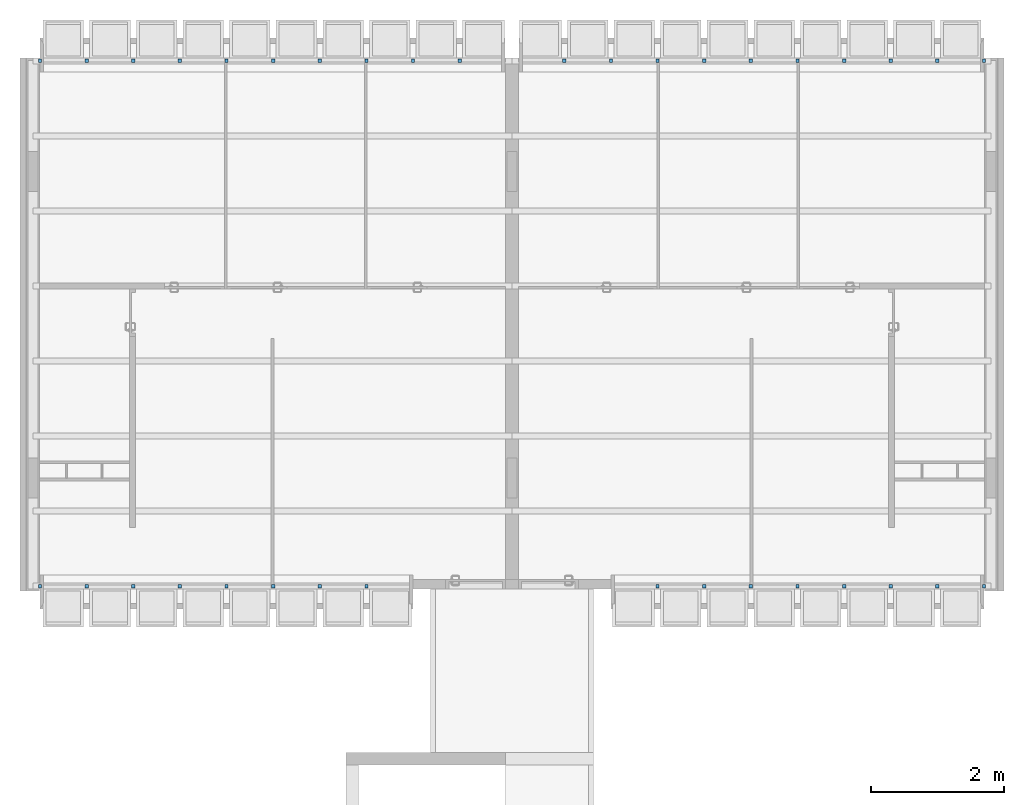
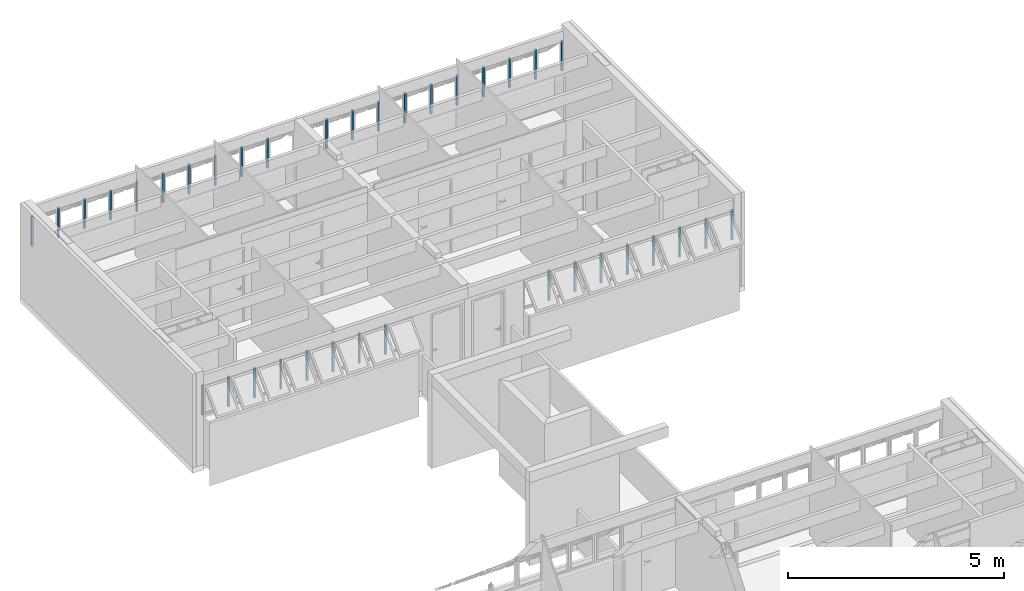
# One storey, part 3 of 37: 36 members, 4 elements without a shape of their own.
"""IFC2X3 building model written with IfcOpenShell, lengths in millimetres."""

from ifc_helpers import new_model, entity, si_unit, converted_unit, derived_unit, money_unit, direction, frame, origin_with_axes, place, context, subcontext, project, spatial, polyline, outline, extrude, material, type_object, element, aggregate, save


model = new_model("IFC2X3")

# Units and contexts
model_context = context("Model", 3, precision=0.01, world=origin_with_axes(), true_north=direction((0.0, 1.0)))
body_context = subcontext(model_context, "Body", "Model", "MODEL_VIEW")
ifc_project = project(units=[si_unit("LENGTHUNIT", "METRE", prefix="MILLI"), si_unit("AREAUNIT", "SQUARE_METRE"), si_unit("VOLUMEUNIT", "CUBIC_METRE"), converted_unit("PLANEANGLEUNIT", "DEGREE", entity("IfcPlaneAngleMeasure", 0.0174532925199), si_unit("PLANEANGLEUNIT", "RADIAN"), dimensions=[0, 0, 0, 0, 0, 0, 0]), money_unit("USD"), converted_unit("TIMEUNIT", "Year", entity("IfcTimeMeasure", 31556926.0), si_unit("TIMEUNIT", "SECOND"), dimensions=[0, 0, 1, 0, 0, 0, 0]), si_unit("MASSUNIT", "GRAM", prefix="KILO"), si_unit("THERMODYNAMICTEMPERATUREUNIT", "DEGREE_CELSIUS"), si_unit("LUMINOUSINTENSITYUNIT", "LUMEN"), si_unit("ENERGYUNIT", "JOULE", prefix="MEGA"), derived_unit("THERMALCONDUCTANCEUNIT", [(si_unit("POWERUNIT", "WATT"), 1), (si_unit("LENGTHUNIT", "METRE"), -1), (si_unit("THERMODYNAMICTEMPERATUREUNIT", "KELVIN"), -1)]), derived_unit("SPECIFICHEATCAPACITYUNIT", [(si_unit("ENERGYUNIT", "JOULE"), 1), (si_unit("MASSUNIT", "GRAM", prefix="KILO"), -1), (si_unit("THERMODYNAMICTEMPERATUREUNIT", "KELVIN"), -1)]), derived_unit("MASSDENSITYUNIT", [(si_unit("MASSUNIT", "GRAM", prefix="KILO"), 1), (si_unit("VOLUMEUNIT", "CUBIC_METRE"), -1)])], contexts=[model_context])

# Site, building, storey
site_placement = place(None, origin_with_axes())
site = spatial("IfcSite", under=ifc_project, at=site_placement, Name="Local", CompositionType="ELEMENT")
building_placement = place(site_placement, origin_with_axes())
building = spatial("IfcBuilding", under=site, at=building_placement, Name="Construção", CompositionType="ELEMENT")
storey_placement = place(building_placement, frame((0.0, 0.0, 5300.0), z_axis=(0.0, 0.0, 1.0), x_axis=(1.0, 0.0, 0.0)))
storey = spatial("IfcBuildingStorey", under=building, at=storey_placement, Name="Terceiro Pavimento", CompositionType="ELEMENT", Elevation=5300.0)

# Window, members
window_style = type_object("IfcWindowStyle", Name="Tipo de Parede Cortina", ConstructionType="NOTDEFINED", OperationType="NOTDEFINED", ParameterTakesPrecedence=False, Sizeable=False)
window_1_placement = place(storey_placement, frame((2750.0, 17910.0, 1355.00007107), z_axis=(0.0, 0.0, 1.0), x_axis=(1.0, 0.0, 0.0)))
window_1 = element("IfcWindow", 1, at=window_1_placement, inside=storey, type_object=window_style, Name="APTO11-JANELA-000")
ifc_material = material(Name="Alumínio")
member_type = type_object("IfcMemberType", Name="Montante 50 x 50", PredefinedType="MULLION")
member_1_placement = place(window_1_placement, frame((1050.0, 0.0, 0.0), z_axis=(0.0, 0.0, 1.0), x_axis=(-1.0, 0.0, 0.0)))
member_1 = element("IfcMember", 2, at=member_1_placement, type_object=member_type, material=ifc_material, Name="APTO11-PC-Est-Mnt-430", context=body_context, shape_type="SweptSolid", body=[
    extrude(outline(polyline([(-25.0, 50.0), (-25.0, 0.0), (25.0, 0.0), (25.0, 50.0), (-25.0, 50.0)])), frame((0.0, 0.0, 0.0), z_axis=(0.0, 0.0, 1.0), x_axis=(-1.0, 0.0, 0.0)), (0.0, 0.0, 1.0), 844.999891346),
])
member_2_placement = place(window_1_placement, frame((1750.0, 0.0, 0.0), z_axis=(0.0, 0.0, 1.0), x_axis=(-1.0, 0.0, 0.0)))
member_2 = element("IfcMember", 3, at=member_2_placement, type_object=member_type, material=ifc_material, Name="APTO11-PC-Est-Mnt-485", context=body_context, shape_type="SweptSolid", body=[
    extrude(outline(polyline([(-25.0, 50.0), (-25.0, 0.0), (25.0, 0.0), (25.0, 50.0), (-25.0, 50.0)])), frame((0.0, 0.0, 0.0), z_axis=(0.0, 0.0, 1.0), x_axis=(-1.0, 0.0, 0.0)), (0.0, 0.0, 1.0), 844.999891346),
])
member_3_placement = place(window_1_placement, frame((2450.0, 0.0, 0.0), z_axis=(0.0, 0.0, 1.0), x_axis=(-1.0, 0.0, 0.0)))
member_3 = element("IfcMember", 4, at=member_3_placement, type_object=member_type, material=ifc_material, Name="APTO11-PC-Est-Mnt-486", context=body_context, shape_type="SweptSolid", body=[
    extrude(outline(polyline([(-25.0, 50.0), (-25.0, 0.0), (25.0, 0.0), (25.0, 50.0), (-25.0, 50.0)])), frame((0.0, 0.0, 0.0), z_axis=(0.0, 0.0, 1.0), x_axis=(-1.0, 0.0, 0.0)), (0.0, 0.0, 1.0), 844.999891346),
])
member_4_placement = place(window_1_placement, frame((-350.0, 0.0, 0.0), z_axis=(0.0, 0.0, 1.0), x_axis=(-1.0, 0.0, 0.0)))
member_4 = element("IfcMember", 5, at=member_4_placement, type_object=member_type, material=ifc_material, Name="APTO11-PC-Est-Mnt-428", context=body_context, shape_type="SweptSolid", body=[
    extrude(outline(polyline([(-25.0, 50.0), (-25.0, 0.0), (25.0, 0.0), (25.0, 50.0), (-25.0, 50.0)])), frame((0.0, 0.0, 0.0), z_axis=(0.0, 0.0, 1.0), x_axis=(-1.0, 0.0, 0.0)), (0.0, 0.0, 1.0), 844.999891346),
])
member_5_placement = place(window_1_placement, frame((-2450.0, 0.0, 0.0), z_axis=(0.0, 0.0, 1.0), x_axis=(-1.0, 0.0, 0.0)))
member_5 = element("IfcMember", 6, at=member_5_placement, type_object=member_type, material=ifc_material, Name="APTO11-PC-Est-Mnt-560", context=body_context, shape_type="SweptSolid", body=[
    extrude(outline(polyline([(-25.0, 50.0), (-25.0, 0.0), (25.0, 0.0), (25.0, 50.0), (-25.0, 50.0)])), frame((0.0, 0.0, 0.0), z_axis=(0.0, 0.0, 1.0), x_axis=(-1.0, 0.0, 0.0)), (0.0, 0.0, 1.0), 844.999891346),
])
member_6_placement = place(window_1_placement, frame((350.0, 0.0, 0.0), z_axis=(0.0, 0.0, 1.0), x_axis=(-1.0, 0.0, 0.0)))
member_6 = element("IfcMember", 7, at=member_6_placement, type_object=member_type, material=ifc_material, Name="APTO11-PC-Est-Mnt-429", context=body_context, shape_type="SweptSolid", body=[
    extrude(outline(polyline([(-25.0, 50.0), (-25.0, 0.0), (25.0, 0.0), (25.0, 50.0), (-25.0, 50.0)])), frame((0.0, 0.0, 0.0), z_axis=(0.0, 0.0, 1.0), x_axis=(-1.0, 0.0, 0.0)), (0.0, 0.0, 1.0), 844.999891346),
])
member_7_placement = place(window_1_placement, frame((-1050.0, 0.0, 0.0), z_axis=(0.0, 0.0, 1.0), x_axis=(-1.0, 0.0, 0.0)))
member_7 = element("IfcMember", 8, at=member_7_placement, type_object=member_type, material=ifc_material, Name="APTO11-PC-Est-Mnt-427", context=body_context, shape_type="SweptSolid", body=[
    extrude(outline(polyline([(-25.0, 50.0), (-25.0, 0.0), (25.0, 0.0), (25.0, 50.0), (-25.0, 50.0)])), frame((0.0, 0.0, 0.0), z_axis=(0.0, 0.0, 1.0), x_axis=(-1.0, 0.0, 0.0)), (0.0, 0.0, 1.0), 844.999891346),
])
member_8_placement = place(window_1_placement, frame((-1750.0, 0.0, 0.0), z_axis=(0.0, 0.0, 1.0), x_axis=(-1.0, 0.0, 0.0)))
member_8 = element("IfcMember", 9, at=member_8_placement, type_object=member_type, material=ifc_material, Name="APTO11-PC-Est-Mnt-426", context=body_context, shape_type="SweptSolid", body=[
    extrude(outline(polyline([(-25.0, 50.0), (-25.0, 0.0), (25.0, 0.0), (25.0, 50.0), (-25.0, 50.0)])), frame((0.0, 0.0, 0.0), z_axis=(0.0, 0.0, 1.0), x_axis=(-1.0, 0.0, 0.0)), (0.0, 0.0, 1.0), 844.999891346),
])
aggregate(window_1, [member_1, member_2, member_3, member_4, member_5, member_6, member_7, member_8])

window_2_placement = place(storey_placement, frame((6250.0, 25844.9790225, 1355.02054151), z_axis=(0.0, 0.0, 1.0), x_axis=(1.0, 0.0, 0.0)))
window_2 = element("IfcWindow", 10, at=window_2_placement, inside=storey, type_object=window_style, Name="APTO11-JANELA-001")
member_9_placement = place(window_2_placement, frame((-2450.0, 0.0, 0.0), z_axis=(0.0, 0.0, 1.0), x_axis=(-1.0, 0.0, 0.0)))
member_9 = element("IfcMember", 11, at=member_9_placement, type_object=member_type, material=ifc_material, Name="APTO11-PC-Est-Mnt-430", context=body_context, shape_type="SweptSolid", body=[
    extrude(outline(polyline([(-25.0, -50.0), (25.0, -50.0), (25.0, 0.0), (-25.0, 0.0), (-25.0, -50.0)])), frame((0.0, 0.0, 0.0), z_axis=(0.0, 0.0, 1.0), x_axis=(-1.0, 0.0, 0.0)), (0.0, 0.0, 1.0), 844.999928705),
])
member_10_placement = place(window_2_placement, frame((-1750.0, 0.0, 0.0), z_axis=(0.0, 0.0, 1.0), x_axis=(-1.0, 0.0, 0.0)))
member_10 = element("IfcMember", 12, at=member_10_placement, type_object=member_type, material=ifc_material, Name="APTO11-PC-Est-Mnt-485", context=body_context, shape_type="SweptSolid", body=[
    extrude(outline(polyline([(-25.0, -50.0), (25.0, -50.0), (25.0, 0.0), (-25.0, 0.0), (-25.0, -50.0)])), frame((0.0, 0.0, 0.0), z_axis=(0.0, 0.0, 1.0), x_axis=(-1.0, 0.0, 0.0)), (0.0, 0.0, 1.0), 844.999928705),
])
member_11_placement = place(window_2_placement, frame((-1050.0, 0.0, 0.0), z_axis=(0.0, 0.0, 1.0), x_axis=(-1.0, 0.0, 0.0)))
member_11 = element("IfcMember", 13, at=member_11_placement, type_object=member_type, material=ifc_material, Name="APTO11-PC-Est-Mnt-486", context=body_context, shape_type="SweptSolid", body=[
    extrude(outline(polyline([(-25.0, -50.0), (25.0, -50.0), (25.0, 0.0), (-25.0, 0.0), (-25.0, -50.0)])), frame((0.0, 0.0, 0.0), z_axis=(0.0, 0.0, 1.0), x_axis=(-1.0, 0.0, 0.0)), (0.0, 0.0, 1.0), 844.999928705),
])
member_12_placement = place(window_2_placement, frame((-3850.0, 0.0, 0.0), z_axis=(0.0, 0.0, 1.0), x_axis=(-1.0, 0.0, 0.0)))
member_12 = element("IfcMember", 14, at=member_12_placement, type_object=member_type, material=ifc_material, Name="APTO11-PC-Est-Mnt-428", context=body_context, shape_type="SweptSolid", body=[
    extrude(outline(polyline([(-25.0, -50.0), (25.0, -50.0), (25.0, 0.0), (-25.0, 0.0), (-25.0, -50.0)])), frame((0.0, 0.0, 0.0), z_axis=(0.0, 0.0, 1.0), x_axis=(-1.0, 0.0, 0.0)), (0.0, 0.0, 1.0), 844.999928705),
])
member_13_placement = place(window_2_placement, frame((-350.0, 0.0, 0.0), z_axis=(0.0, 0.0, 1.0), x_axis=(-1.0, 0.0, 0.0)))
member_13 = element("IfcMember", 15, at=member_13_placement, type_object=member_type, material=ifc_material, Name="APTO11-PC-Est-Mnt-487", context=body_context, shape_type="SweptSolid", body=[
    extrude(outline(polyline([(-25.0, -50.0), (25.0, -50.0), (25.0, 0.0), (-25.0, 0.0), (-25.0, -50.0)])), frame((0.0, 0.0, 0.0), z_axis=(0.0, 0.0, 1.0), x_axis=(-1.0, 0.0, 0.0)), (0.0, 0.0, 1.0), 844.999928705),
])
member_14_placement = place(window_2_placement, frame((350.0, 0.0, 0.0), z_axis=(0.0, 0.0, 1.0), x_axis=(-1.0, 0.0, 0.0)))
member_14 = element("IfcMember", 16, at=member_14_placement, type_object=member_type, material=ifc_material, Name="APTO11-PC-Est-Mnt-488", context=body_context, shape_type="SweptSolid", body=[
    extrude(outline(polyline([(-25.0, -50.0), (25.0, -50.0), (25.0, 0.0), (-25.0, 0.0), (-25.0, -50.0)])), frame((0.0, 0.0, 0.0), z_axis=(0.0, 0.0, 1.0), x_axis=(-1.0, 0.0, 0.0)), (0.0, 0.0, 1.0), 844.999928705),
])
member_15_placement = place(window_2_placement, frame((-5950.0, 0.0, 0.0), z_axis=(0.0, 0.0, 1.0), x_axis=(-1.0, 0.0, 0.0)))
member_15 = element("IfcMember", 17, at=member_15_placement, type_object=member_type, material=ifc_material, Name="APTO11-PC-Est-Mnt-522", context=body_context, shape_type="SweptSolid", body=[
    extrude(outline(polyline([(-25.0, -50.0), (25.0, -50.0), (25.0, 0.0), (-25.0, 0.0), (-25.0, -50.0)])), frame((0.0, 0.0, 0.0), z_axis=(0.0, 0.0, 1.0), x_axis=(-1.0, 0.0, 0.0)), (0.0, 0.0, 1.0), 844.999928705),
])
member_16_placement = place(window_2_placement, frame((-3150.0, 0.0, 0.0), z_axis=(0.0, 0.0, 1.0), x_axis=(-1.0, 0.0, 0.0)))
member_16 = element("IfcMember", 18, at=member_16_placement, type_object=member_type, material=ifc_material, Name="APTO11-PC-Est-Mnt-429", context=body_context, shape_type="SweptSolid", body=[
    extrude(outline(polyline([(-25.0, -50.0), (25.0, -50.0), (25.0, 0.0), (-25.0, 0.0), (-25.0, -50.0)])), frame((0.0, 0.0, 0.0), z_axis=(0.0, 0.0, 1.0), x_axis=(-1.0, 0.0, 0.0)), (0.0, 0.0, 1.0), 844.999928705),
])
member_17_placement = place(window_2_placement, frame((-4550.0, 0.0, 0.0), z_axis=(0.0, 0.0, 1.0), x_axis=(-1.0, 0.0, 0.0)))
member_17 = element("IfcMember", 19, at=member_17_placement, type_object=member_type, material=ifc_material, Name="APTO11-PC-Est-Mnt-427", context=body_context, shape_type="SweptSolid", body=[
    extrude(outline(polyline([(-25.0, -50.0), (25.0, -50.0), (25.0, 0.0), (-25.0, 0.0), (-25.0, -50.0)])), frame((0.0, 0.0, 0.0), z_axis=(0.0, 0.0, 1.0), x_axis=(-1.0, 0.0, 0.0)), (0.0, 0.0, 1.0), 844.999928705),
])
member_18_placement = place(window_2_placement, frame((-5250.0, 0.0, 0.0), z_axis=(0.0, 0.0, 1.0), x_axis=(-1.0, 0.0, 0.0)))
member_18 = element("IfcMember", 20, at=member_18_placement, type_object=member_type, material=ifc_material, Name="APTO11-PC-Est-Mnt-426", context=body_context, shape_type="SweptSolid", body=[
    extrude(outline(polyline([(-25.0, -50.0), (25.0, -50.0), (25.0, 0.0), (-25.0, 0.0), (-25.0, -50.0)])), frame((0.0, 0.0, 0.0), z_axis=(0.0, 0.0, 1.0), x_axis=(-1.0, 0.0, 0.0)), (0.0, 0.0, 1.0), 844.999928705),
])
aggregate(window_2, [member_9, member_10, member_11, member_12, member_13, member_14, member_15, member_16, member_17, member_18])

window_3_placement = place(storey_placement, frame((12020.0, 17910.0, 1355.00007107), z_axis=(0.0, 0.0, 1.0), x_axis=(1.0, 0.0, 0.0)))
window_3 = element("IfcWindow", 21, at=window_3_placement, inside=storey, type_object=window_style, Name="APTO12-JANELA-000")
member_19_placement = place(window_3_placement, frame((-1050.0, 0.0, 0.0), z_axis=(0.0, 0.0, 1.0), x_axis=(1.0, 0.0, 0.0)))
member_19 = element("IfcMember", 22, at=member_19_placement, type_object=member_type, material=ifc_material, Name="APTO12-PC-Est-Mnt-430", context=body_context, shape_type="SweptSolid", body=[
    extrude(outline(polyline([(25.0, 50.0), (-25.0, 50.0), (-25.0, 0.0), (25.0, 0.0), (25.0, 50.0)])), origin_with_axes(), (0.0, 0.0, 1.0), 844.999928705),
])
member_20_placement = place(window_3_placement, frame((-1750.0, 0.0, 0.0), z_axis=(0.0, 0.0, 1.0), x_axis=(1.0, 0.0, 0.0)))
member_20 = element("IfcMember", 23, at=member_20_placement, type_object=member_type, material=ifc_material, Name="APTO12-PC-Est-Mnt-485", context=body_context, shape_type="SweptSolid", body=[
    extrude(outline(polyline([(25.0, 50.0), (-25.0, 50.0), (-25.0, 0.0), (25.0, 0.0), (25.0, 50.0)])), origin_with_axes(), (0.0, 0.0, 1.0), 844.999928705),
])
member_21_placement = place(window_3_placement, frame((-2450.0, 0.0, 0.0), z_axis=(0.0, 0.0, 1.0), x_axis=(1.0, 0.0, 0.0)))
member_21 = element("IfcMember", 24, at=member_21_placement, type_object=member_type, material=ifc_material, Name="APTO12-PC-Est-Mnt-486", context=body_context, shape_type="SweptSolid", body=[
    extrude(outline(polyline([(25.0, 50.0), (-25.0, 50.0), (-25.0, 0.0), (25.0, 0.0), (25.0, 50.0)])), origin_with_axes(), (0.0, 0.0, 1.0), 844.999928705),
])
member_22_placement = place(window_3_placement, frame((350.0, 0.0, 0.0), z_axis=(0.0, 0.0, 1.0), x_axis=(1.0, 0.0, 0.0)))
member_22 = element("IfcMember", 25, at=member_22_placement, type_object=member_type, material=ifc_material, Name="APTO12-PC-Est-Mnt-428", context=body_context, shape_type="SweptSolid", body=[
    extrude(outline(polyline([(25.0, 50.0), (-25.0, 50.0), (-25.0, 0.0), (25.0, 0.0), (25.0, 50.0)])), origin_with_axes(), (0.0, 0.0, 1.0), 844.999928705),
])
member_23_placement = place(window_3_placement, frame((2450.0, 0.0, 0.0), z_axis=(0.0, 0.0, 1.0), x_axis=(1.0, 0.0, 0.0)))
member_23 = element("IfcMember", 26, at=member_23_placement, type_object=member_type, material=ifc_material, Name="APTO12-PC-Est-Mnt-560", context=body_context, shape_type="SweptSolid", body=[
    extrude(outline(polyline([(25.0, 50.0), (-25.0, 50.0), (-25.0, 0.0), (25.0, 0.0), (25.0, 50.0)])), origin_with_axes(), (0.0, 0.0, 1.0), 844.999928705),
])
member_24_placement = place(window_3_placement, frame((-350.0, 0.0, 0.0), z_axis=(0.0, 0.0, 1.0), x_axis=(1.0, 0.0, 0.0)))
member_24 = element("IfcMember", 27, at=member_24_placement, type_object=member_type, material=ifc_material, Name="APTO12-PC-Est-Mnt-429", context=body_context, shape_type="SweptSolid", body=[
    extrude(outline(polyline([(25.0, 50.0), (-25.0, 50.0), (-25.0, 0.0), (25.0, 0.0), (25.0, 50.0)])), origin_with_axes(), (0.0, 0.0, 1.0), 844.999928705),
])
member_25_placement = place(window_3_placement, frame((1050.0, 0.0, 0.0), z_axis=(0.0, 0.0, 1.0), x_axis=(1.0, 0.0, 0.0)))
member_25 = element("IfcMember", 28, at=member_25_placement, type_object=member_type, material=ifc_material, Name="APTO12-PC-Est-Mnt-427", context=body_context, shape_type="SweptSolid", body=[
    extrude(outline(polyline([(25.0, 50.0), (-25.0, 50.0), (-25.0, 0.0), (25.0, 0.0), (25.0, 50.0)])), origin_with_axes(), (0.0, 0.0, 1.0), 844.999928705),
])
member_26_placement = place(window_3_placement, frame((1750.0, 0.0, 0.0), z_axis=(0.0, 0.0, 1.0), x_axis=(1.0, 0.0, 0.0)))
member_26 = element("IfcMember", 29, at=member_26_placement, type_object=member_type, material=ifc_material, Name="APTO12-PC-Est-Mnt-426", context=body_context, shape_type="SweptSolid", body=[
    extrude(outline(polyline([(25.0, 50.0), (-25.0, 50.0), (-25.0, 0.0), (25.0, 0.0), (25.0, 50.0)])), origin_with_axes(), (0.0, 0.0, 1.0), 844.999928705),
])
aggregate(window_3, [member_19, member_20, member_21, member_22, member_23, member_24, member_25, member_26])

window_4_placement = place(storey_placement, frame((8520.0, 25844.9790225, 1355.02054151), z_axis=(0.0, 0.0, 1.0), x_axis=(1.0, 0.0, 0.0)))
window_4 = element("IfcWindow", 30, at=window_4_placement, inside=storey, type_object=window_style, Name="APTO12-JANELA-001")
member_27_placement = place(window_4_placement, frame((2450.0, 0.0, 0.0), z_axis=(0.0, 0.0, 1.0), x_axis=(1.0, 0.0, 0.0)))
member_27 = element("IfcMember", 31, at=member_27_placement, type_object=member_type, material=ifc_material, Name="APTO12-PC-Est-Mnt-430", context=body_context, shape_type="SweptSolid", body=[
    extrude(outline(polyline([(25.0, -50.0), (25.0, 0.0), (-25.0, 0.0), (-25.0, -50.0), (25.0, -50.0)])), origin_with_axes(), (0.0, 0.0, 1.0), 844.999891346),
])
member_28_placement = place(window_4_placement, frame((1750.0, 0.0, 0.0), z_axis=(0.0, 0.0, 1.0), x_axis=(1.0, 0.0, 0.0)))
member_28 = element("IfcMember", 32, at=member_28_placement, type_object=member_type, material=ifc_material, Name="APTO12-PC-Est-Mnt-485", context=body_context, shape_type="SweptSolid", body=[
    extrude(outline(polyline([(25.0, -50.0), (25.0, 0.0), (-25.0, 0.0), (-25.0, -50.0), (25.0, -50.0)])), origin_with_axes(), (0.0, 0.0, 1.0), 844.999891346),
])
member_29_placement = place(window_4_placement, frame((1050.0, 0.0, 0.0), z_axis=(0.0, 0.0, 1.0), x_axis=(1.0, 0.0, 0.0)))
member_29 = element("IfcMember", 33, at=member_29_placement, type_object=member_type, material=ifc_material, Name="APTO12-PC-Est-Mnt-486", context=body_context, shape_type="SweptSolid", body=[
    extrude(outline(polyline([(25.0, -50.0), (25.0, 0.0), (-25.0, 0.0), (-25.0, -50.0), (25.0, -50.0)])), origin_with_axes(), (0.0, 0.0, 1.0), 844.999891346),
])
member_30_placement = place(window_4_placement, frame((3850.0, 0.0, 0.0), z_axis=(0.0, 0.0, 1.0), x_axis=(1.0, 0.0, 0.0)))
member_30 = element("IfcMember", 34, at=member_30_placement, type_object=member_type, material=ifc_material, Name="APTO12-PC-Est-Mnt-428", context=body_context, shape_type="SweptSolid", body=[
    extrude(outline(polyline([(25.0, -50.0), (25.0, 0.0), (-25.0, 0.0), (-25.0, -50.0), (25.0, -50.0)])), origin_with_axes(), (0.0, 0.0, 1.0), 844.999891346),
])
member_31_placement = place(window_4_placement, frame((350.0, 0.0, 0.0), z_axis=(0.0, 0.0, 1.0), x_axis=(1.0, 0.0, 0.0)))
member_31 = element("IfcMember", 35, at=member_31_placement, type_object=member_type, material=ifc_material, Name="APTO12-PC-Est-Mnt-487", context=body_context, shape_type="SweptSolid", body=[
    extrude(outline(polyline([(25.0, -50.0), (25.0, 0.0), (-25.0, 0.0), (-25.0, -50.0), (25.0, -50.0)])), origin_with_axes(), (0.0, 0.0, 1.0), 844.999891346),
])
member_32_placement = place(window_4_placement, frame((-350.0, 0.0, 0.0), z_axis=(0.0, 0.0, 1.0), x_axis=(1.0, 0.0, 0.0)))
member_32 = element("IfcMember", 36, at=member_32_placement, type_object=member_type, material=ifc_material, Name="APTO12-PC-Est-Mnt-488", context=body_context, shape_type="SweptSolid", body=[
    extrude(outline(polyline([(25.0, -50.0), (25.0, 0.0), (-25.0, 0.0), (-25.0, -50.0), (25.0, -50.0)])), origin_with_axes(), (0.0, 0.0, 1.0), 844.999891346),
])
member_33_placement = place(window_4_placement, frame((5950.0, 0.0, 0.0), z_axis=(0.0, 0.0, 1.0), x_axis=(1.0, 0.0, 0.0)))
member_33 = element("IfcMember", 37, at=member_33_placement, type_object=member_type, material=ifc_material, Name="APTO12-PC-Est-Mnt-522", context=body_context, shape_type="SweptSolid", body=[
    extrude(outline(polyline([(25.0, -50.0), (25.0, 0.0), (-25.0, 0.0), (-25.0, -50.0), (25.0, -50.0)])), origin_with_axes(), (0.0, 0.0, 1.0), 844.999891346),
])
member_34_placement = place(window_4_placement, frame((3150.0, 0.0, 0.0), z_axis=(0.0, 0.0, 1.0), x_axis=(1.0, 0.0, 0.0)))
member_34 = element("IfcMember", 38, at=member_34_placement, type_object=member_type, material=ifc_material, Name="APTO12-PC-Est-Mnt-429", context=body_context, shape_type="SweptSolid", body=[
    extrude(outline(polyline([(25.0, -50.0), (25.0, 0.0), (-25.0, 0.0), (-25.0, -50.0), (25.0, -50.0)])), origin_with_axes(), (0.0, 0.0, 1.0), 844.999891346),
])
member_35_placement = place(window_4_placement, frame((4550.0, 0.0, 0.0), z_axis=(0.0, 0.0, 1.0), x_axis=(1.0, 0.0, 0.0)))
member_35 = element("IfcMember", 39, at=member_35_placement, type_object=member_type, material=ifc_material, Name="APTO12-PC-Est-Mnt-427", context=body_context, shape_type="SweptSolid", body=[
    extrude(outline(polyline([(25.0, -50.0), (25.0, 0.0), (-25.0, 0.0), (-25.0, -50.0), (25.0, -50.0)])), origin_with_axes(), (0.0, 0.0, 1.0), 844.999891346),
])
member_36_placement = place(window_4_placement, frame((5250.0, 0.0, 0.0), z_axis=(0.0, 0.0, 1.0), x_axis=(1.0, 0.0, 0.0)))
member_36 = element("IfcMember", 40, at=member_36_placement, type_object=member_type, material=ifc_material, Name="APTO12-PC-Est-Mnt-426", context=body_context, shape_type="SweptSolid", body=[
    extrude(outline(polyline([(25.0, -50.0), (25.0, 0.0), (-25.0, 0.0), (-25.0, -50.0), (25.0, -50.0)])), origin_with_axes(), (0.0, 0.0, 1.0), 844.999891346),
])
aggregate(window_4, [member_27, member_28, member_29, member_30, member_31, member_32, member_33, member_34, member_35, member_36])

save(model, "model.ifc")
